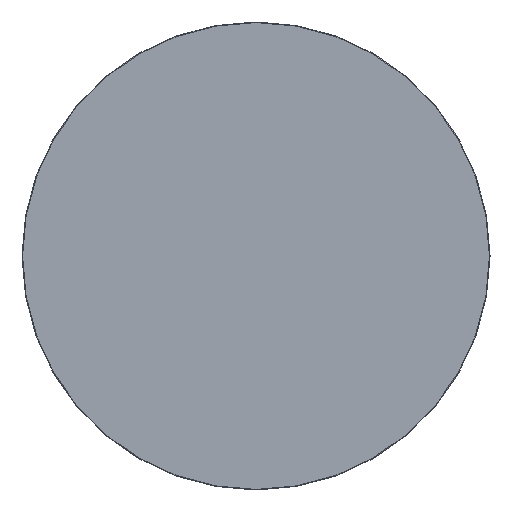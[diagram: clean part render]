
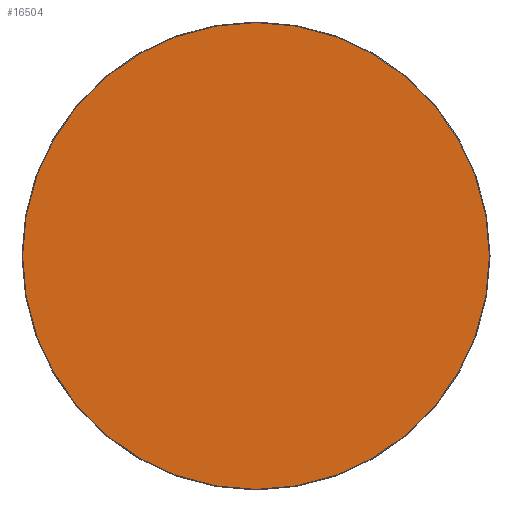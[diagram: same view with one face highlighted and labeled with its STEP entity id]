
A CAD part, top view. The second image highlights one B-rep face of the part: STEP entity #16504.
In plain terms, the highlighted planar face has unit normal (0, 0, 1).
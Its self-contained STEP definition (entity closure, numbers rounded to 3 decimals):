
#16429=CARTESIAN_POINT('',(0.,0.,20.));
#16430=DIRECTION('',(1.,0.,0.));
#16431=DIRECTION('',(0.,0.,1.));
#16432=AXIS2_PLACEMENT_3D('',#16429,#16431,#16430);
#16433=PLANE('',#16432);
#16434=CARTESIAN_POINT('',(-0.5,-598.5,20.));
#16435=VERTEX_POINT('',#16434);
#16436=CARTESIAN_POINT('',(0.5,-598.5,20.));
#16437=VERTEX_POINT('',#16436);
#16438=CARTESIAN_POINT('',(-0.5,-598.5,20.));
#16439=DIRECTION('',(1.,0.,0.));
#16440=VECTOR('',#16439,1.);
#16441=LINE('',#16438,#16440);
#16442=EDGE_CURVE('',#16435,#16437,#16441,.T.);
#16443=ORIENTED_EDGE('E105',*,*,#16442,.T.);
#16444=CARTESIAN_POINT('',(598.5,-0.5,20.));
#16445=VERTEX_POINT('',#16444);
#16446=CARTESIAN_POINT('',(0.5,-0.5,20.));
#16447=DIRECTION('',(0.,-1.,0.));
#16448=DIRECTION('',(0.,-0.,1.));
#16449=AXIS2_PLACEMENT_3D('',#16446,#16448,#16447);
#16450=CIRCLE('',#16449,598.);
#16451=EDGE_CURVE('',#16437,#16445,#16450,.T.);
#16452=ORIENTED_EDGE('E107',*,*,#16451,.T.);
#16453=CARTESIAN_POINT('',(598.5,0.5,20.));
#16454=VERTEX_POINT('',#16453);
#16455=CARTESIAN_POINT('',(598.5,-0.5,20.));
#16456=DIRECTION('',(0.,1.,0.));
#16457=VECTOR('',#16456,1.);
#16458=LINE('',#16455,#16457);
#16459=EDGE_CURVE('',#16445,#16454,#16458,.T.);
#16460=ORIENTED_EDGE('E109',*,*,#16459,.T.);
#16461=CARTESIAN_POINT('',(0.5,598.5,20.));
#16462=VERTEX_POINT('',#16461);
#16463=CARTESIAN_POINT('',(0.5,0.5,20.));
#16464=DIRECTION('',(1.,0.,0.));
#16465=DIRECTION('',(0.,0.,1.));
#16466=AXIS2_PLACEMENT_3D('',#16463,#16465,#16464);
#16467=CIRCLE('',#16466,598.);
#16468=EDGE_CURVE('',#16454,#16462,#16467,.T.);
#16469=ORIENTED_EDGE('E111',*,*,#16468,.T.);
#16470=CARTESIAN_POINT('',(-0.5,598.5,20.));
#16471=VERTEX_POINT('',#16470);
#16472=CARTESIAN_POINT('',(0.5,598.5,20.));
#16473=DIRECTION('',(-1.,0.,0.));
#16474=VECTOR('',#16473,1.);
#16475=LINE('',#16472,#16474);
#16476=EDGE_CURVE('',#16462,#16471,#16475,.T.);
#16477=ORIENTED_EDGE('E113',*,*,#16476,.T.);
#16478=CARTESIAN_POINT('',(-598.5,0.5,20.));
#16479=VERTEX_POINT('',#16478);
#16480=CARTESIAN_POINT('',(-0.5,0.5,20.));
#16481=DIRECTION('',(0.,1.,0.));
#16482=DIRECTION('',(0.,0.,1.));
#16483=AXIS2_PLACEMENT_3D('',#16480,#16482,#16481);
#16484=CIRCLE('',#16483,598.);
#16485=EDGE_CURVE('',#16471,#16479,#16484,.T.);
#16486=ORIENTED_EDGE('E115',*,*,#16485,.T.);
#16487=CARTESIAN_POINT('',(-598.5,-0.5,20.));
#16488=VERTEX_POINT('',#16487);
#16489=CARTESIAN_POINT('',(-598.5,0.5,20.));
#16490=DIRECTION('',(0.,-1.,0.));
#16491=VECTOR('',#16490,1.);
#16492=LINE('',#16489,#16491);
#16493=EDGE_CURVE('',#16479,#16488,#16492,.T.);
#16494=ORIENTED_EDGE('E117',*,*,#16493,.T.);
#16495=CARTESIAN_POINT('',(-0.5,-0.5,20.));
#16496=DIRECTION('',(-1.,0.,0.));
#16497=DIRECTION('',(0.,0.,1.));
#16498=AXIS2_PLACEMENT_3D('',#16495,#16497,#16496);
#16499=CIRCLE('',#16498,598.);
#16500=EDGE_CURVE('',#16488,#16435,#16499,.T.);
#16501=ORIENTED_EDGE('E119',*,*,#16500,.T.);
#16502=EDGE_LOOP('',(#16443,#16452,#16460,#16469,#16477,#16486,#16494,#16501));
#16503=FACE_OUTER_BOUND('',#16502,.T.);
#16504=ADVANCED_FACE('F2',(#16503),#16433,.T.);
